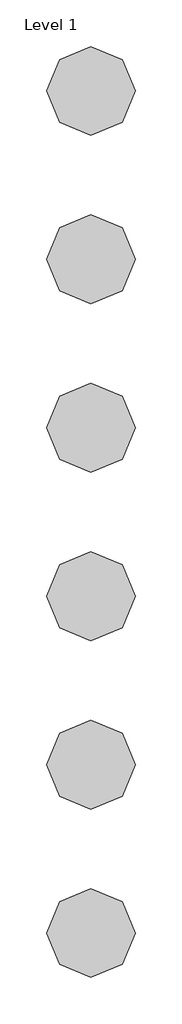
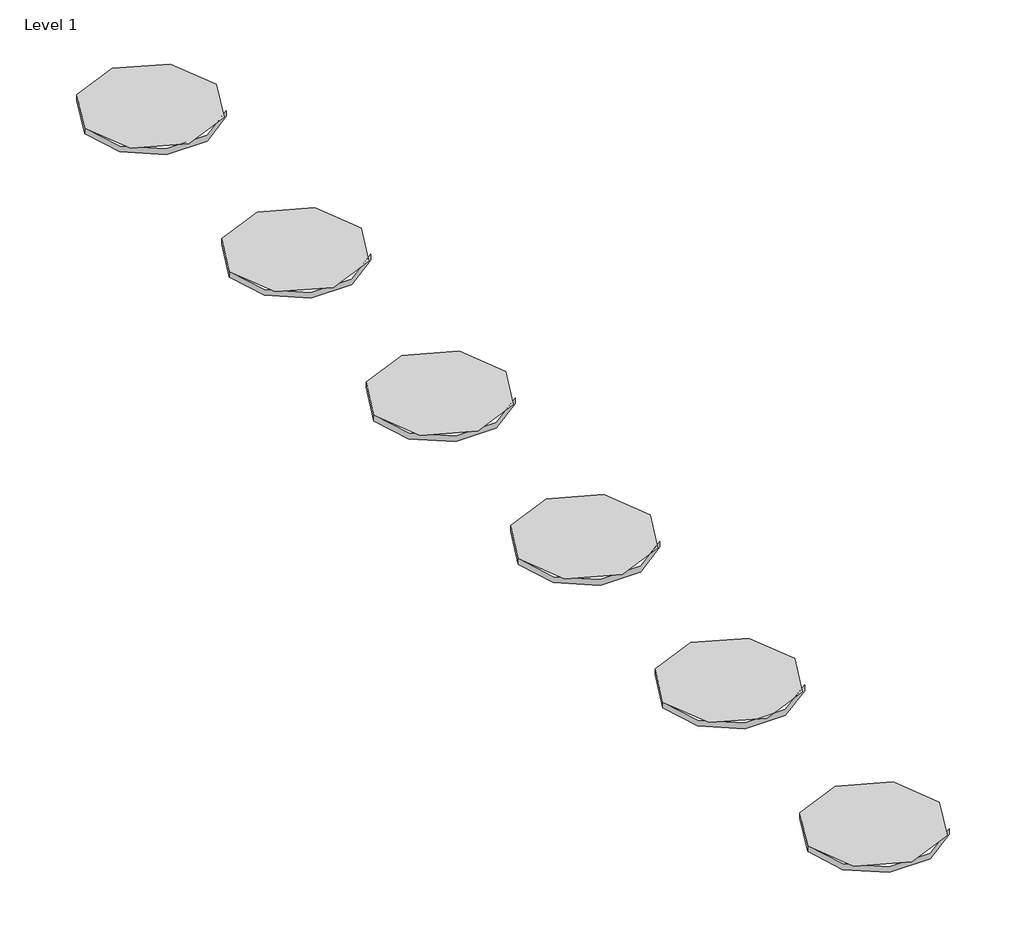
# One storey, incomplete: 6 proxies.
"""IFC4 building model written with IfcOpenShell, lengths in millimetres."""

from ifc_helpers import new_model, si_unit, origin, place, context, project, spatial, transform, mapped, element, save
from components import materialmodel_materialmodel_a045d503

model = new_model("IFC4")

# Units and contexts
model_context = context("Model", 3, world=origin())
ifc_project = project(units=[si_unit("LENGTHUNIT", "METRE", prefix="MILLI")], contexts=[model_context])

# Site, building, storey
site = spatial("IfcSite", under=ifc_project)
building = spatial("IfcBuilding", under=site)
storey = spatial("IfcBuildingStorey", under=building, Name="Level 1", Elevation=0.0)

# Proxies
placement = place(None, origin())
materialmodel_materialmodel_shape = materialmodel_materialmodel_a045d503(model_context)
element("IfcBuildingElementProxy", 1, Name="MaterialModel : MaterialModel", ObjectType="MaterialModel : MaterialModel", at=placement, inside=storey, context=model_context, shape_type="MappedRepresentation", body=[
    mapped(materialmodel_materialmodel_shape, transform((-7577.4682316, 528.2807056, 0.0), x_axis=(1.0, 0.0, 0.0), y_axis=(0.0, 1.0, 0.0), z_axis=(0.0, 0.0, 1.0))),
])
element("IfcBuildingElementProxy", 2, Name="MaterialModel : MaterialModel", ObjectType="MaterialModel : MaterialModel", at=placement, inside=storey, context=model_context, shape_type="MappedRepresentation", body=[
    mapped(materialmodel_materialmodel_shape, transform((-7577.4682316, 148.2807056, 0.0), x_axis=(1.0, 0.0, 0.0), y_axis=(0.0, 1.0, 0.0), z_axis=(0.0, 0.0, 1.0))),
])
element("IfcBuildingElementProxy", 3, Name="MaterialModel : MaterialModel", ObjectType="MaterialModel : MaterialModel", at=placement, inside=storey, context=model_context, shape_type="MappedRepresentation", body=[
    mapped(materialmodel_materialmodel_shape, transform((-7577.4682316, -231.7192944, 0.0), x_axis=(1.0, 0.0, 0.0), y_axis=(0.0, 1.0, 0.0), z_axis=(0.0, 0.0, 1.0))),
])
element("IfcBuildingElementProxy", 4, Name="MaterialModel : MaterialModel", ObjectType="MaterialModel : MaterialModel", at=placement, inside=storey, context=model_context, shape_type="MappedRepresentation", body=[
    mapped(materialmodel_materialmodel_shape, transform((-7577.4682316, -611.7192944, 0.0), x_axis=(1.0, 0.0, 0.0), y_axis=(0.0, 1.0, 0.0), z_axis=(0.0, 0.0, 1.0))),
])
element("IfcBuildingElementProxy", 5, Name="MaterialModel : MaterialModel", ObjectType="MaterialModel : MaterialModel", at=placement, inside=storey, context=model_context, shape_type="MappedRepresentation", body=[
    mapped(materialmodel_materialmodel_shape, transform((-7577.4682316, -991.7192944, 0.0), x_axis=(1.0, 0.0, 0.0), y_axis=(0.0, 1.0, 0.0), z_axis=(0.0, 0.0, 1.0))),
])
element("IfcBuildingElementProxy", 6, Name="MaterialModel : MaterialModel", ObjectType="MaterialModel : MaterialModel", at=placement, inside=storey, context=model_context, shape_type="MappedRepresentation", body=[
    mapped(materialmodel_materialmodel_shape, transform((-7577.4682316, -1371.7192944, 0.0), x_axis=(1.0, 0.0, 0.0), y_axis=(0.0, 1.0, 0.0), z_axis=(0.0, 0.0, 1.0))),
])

save(model, "model.ifc")
